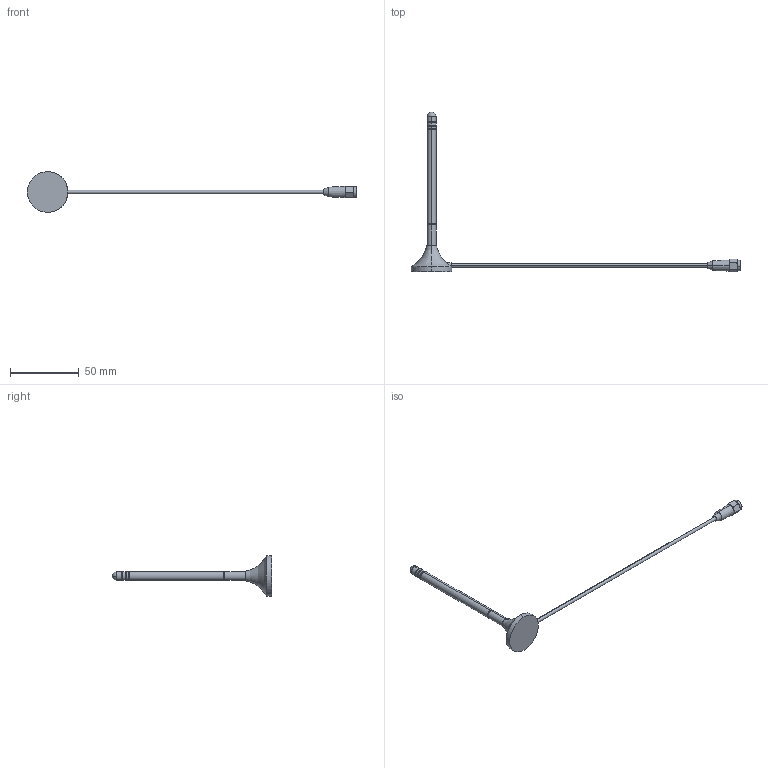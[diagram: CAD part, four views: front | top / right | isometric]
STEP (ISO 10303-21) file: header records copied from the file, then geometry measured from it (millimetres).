
FILE_DESCRIPTION (( 'STEP AP214' ), '1' );
FILE_NAME ('GA.107.201111(for CUST).STEP', '2019-05-31T02:57:52', ( '' ), ( '' ), 'SwSTEP 2.0', 'SolidWorks 2017', '' );
FILE_SCHEMA (( 'AUTOMOTIVE_DESIGN' ));
Length unit declared in the file: millimetre
Products named in the file (9): GA.107.201111(for CUST); SMA.M.ST(RP); RG174 Coaxial Cable; GA.107; 001311J030002A_Strain Relief Bushing
Assembly tree (4 placements, depth 2):
  GA.107.201111(for CUST)
    GA.107
    RG174 Coaxial Cable
    SMA.M.ST(RP)
    001311J030002A_Strain Relief Bushing
  SMA.M.ST(RP)
  RG174 Coaxial Cable
  001311J030002A_Strain Relief Bushing
  GA.107
Bounding box: 239.61 x 116.22 x 29.5 mm (x, y, z)
Volume: 10873.3 mm3; surface area: 6756.8 mm2
Topology: 4 solids, 4 shells, 114 faces, 253 edges, 160 vertices
Faces by surface type: cylinder 52, plane 32, cone 14, torus 9, bspline 5, sphere 2
Entity records: 5407 total; most frequent: CARTESIAN_POINT 2732, DIRECTION 528, ORIENTED_EDGE 502, EDGE_CURVE 251, AXIS2_PLACEMENT_3D 227, VERTEX_POINT 160, EDGE_LOOP 129, FACE_OUTER_BOUND 114
